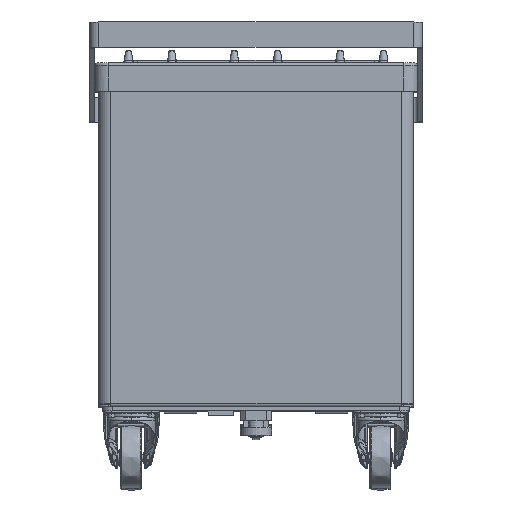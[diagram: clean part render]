
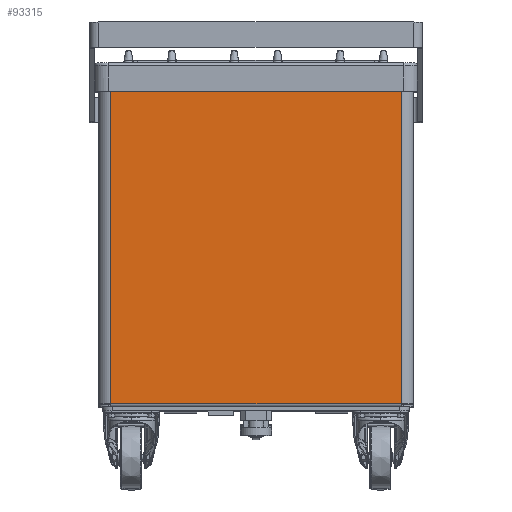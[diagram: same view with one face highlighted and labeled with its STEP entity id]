
A CAD part, top view. The second image highlights one B-rep face of the part: STEP entity #93315.
In plain terms, the highlighted planar face has unit normal (0, 0, 1).
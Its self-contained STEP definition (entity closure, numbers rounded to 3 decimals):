
#1436 = VERTEX_POINT ( 'NONE', #59512 ) ;
#3890 = EDGE_LOOP ( 'NONE', ( #15284, #50488, #40474, #74350 ) ) ;
#9014 = CARTESIAN_POINT ( 'NONE',  ( 0., 325.5, 524.862 ) ) ;
#10526 = AXIS2_PLACEMENT_3D ( 'NONE', #9014, #100648, #50400 ) ;
#10931 = LINE ( 'NONE', #84160, #41077 ) ;
#15284 = ORIENTED_EDGE ( 'NONE', *, *, #53505, .F. ) ;
#17035 = VECTOR ( 'NONE', #47777, 1000. ) ;
#18842 = CARTESIAN_POINT ( 'NONE',  ( -288.5, 634., 524.862 ) ) ;
#24054 = CARTESIAN_POINT ( 'NONE',  ( 288.5, 643., 524.862 ) ) ;
#26222 = DIRECTION ( 'NONE',  ( 1., 0., 0. ) ) ;
#27881 = LINE ( 'NONE', #59458, #59350 ) ;
#29299 = EDGE_CURVE ( 'NONE', #92011, #1436, #84438, .T. ) ;
#30582 = CARTESIAN_POINT ( 'NONE',  ( 0., 634., 524.862 ) ) ;
#37852 = VERTEX_POINT ( 'NONE', #18842 ) ;
#40474 = ORIENTED_EDGE ( 'NONE', *, *, #43038, .T. ) ;
#41077 = VECTOR ( 'NONE', #26222, 1000. ) ;
#42107 = VERTEX_POINT ( 'NONE', #96943 ) ;
#43038 = EDGE_CURVE ( 'NONE', #42107, #92011, #10931, .T. ) ;
#47777 = DIRECTION ( 'NONE',  ( 1., 0., 0. ) ) ;
#50400 = DIRECTION ( 'NONE',  ( -1., 0., 0. ) ) ;
#50488 = ORIENTED_EDGE ( 'NONE', *, *, #59071, .T. ) ;
#53505 = EDGE_CURVE ( 'NONE', #37852, #1436, #87820, .T. ) ;
#59071 = EDGE_CURVE ( 'NONE', #37852, #42107, #27881, .T. ) ;
#59350 = VECTOR ( 'NONE', #93558, 1000. ) ;
#59458 = CARTESIAN_POINT ( 'NONE',  ( -288.5, 643., 524.862 ) ) ;
#59512 = CARTESIAN_POINT ( 'NONE',  ( 288.5, 634., 524.862 ) ) ;
#66716 = CARTESIAN_POINT ( 'NONE',  ( 288.5, 13.5, 524.862 ) ) ;
#74350 = ORIENTED_EDGE ( 'NONE', *, *, #29299, .T. ) ;
#81837 = VECTOR ( 'NONE', #108021, 1000. ) ;
#84160 = CARTESIAN_POINT ( 'NONE',  ( -288.5, 13.5, 524.862 ) ) ;
#84406 = FACE_OUTER_BOUND ( 'NONE', #3890, .T. ) ;
#84438 = LINE ( 'NONE', #24054, #81837 ) ;
#87820 = LINE ( 'NONE', #30582, #17035 ) ;
#92011 = VERTEX_POINT ( 'NONE', #66716 ) ;
#92585 = PLANE ( 'NONE',  #10526 ) ;
#93315 = ADVANCED_FACE ( 'NONE', ( #84406 ), #92585, .F. ) ;
#93558 = DIRECTION ( 'NONE',  ( 0., -1., 0. ) ) ;
#96943 = CARTESIAN_POINT ( 'NONE',  ( -288.5, 13.5, 524.862 ) ) ;
#100648 = DIRECTION ( 'NONE',  ( 0., 0., -1. ) ) ;
#108021 = DIRECTION ( 'NONE',  ( 0., 1., 0. ) ) ;
